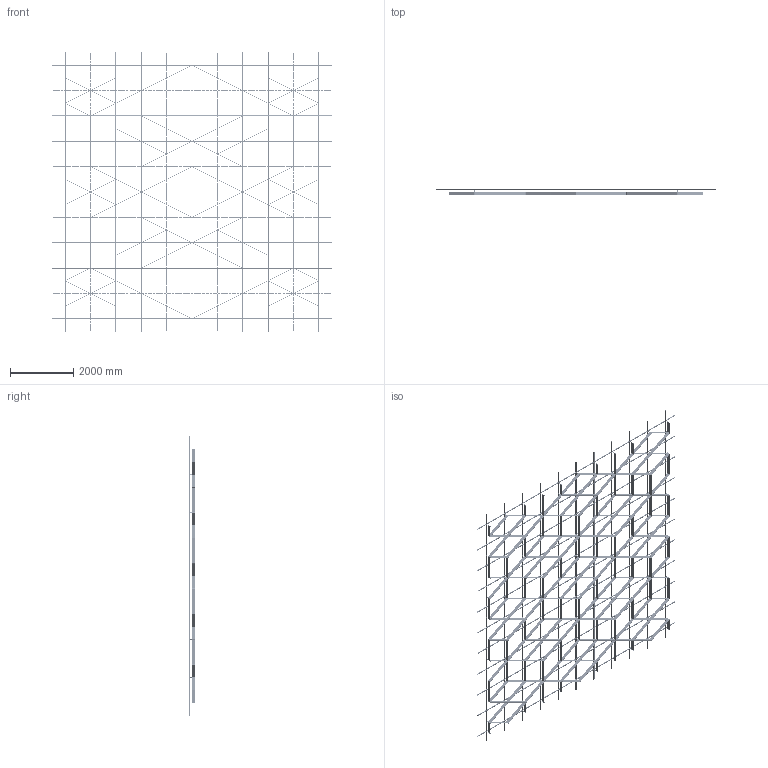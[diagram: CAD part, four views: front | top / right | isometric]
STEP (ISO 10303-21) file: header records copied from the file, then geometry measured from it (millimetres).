
FILE_DESCRIPTION (( 'STEP AP203' ), '1' );
FILE_NAME ('24 ìèäè ñ ïñ.step', '2025-11-26T11:52:01', ( '' ), ( '' ), 'SwSTEP 2.0', 'SolidWorks 2020', '' );
FILE_SCHEMA (( 'CONFIG_CONTROL_DESIGN' ));
Length unit declared in the file: millimetre
Products named in the file (5): 24 ìèäè ñ ïñ; Ñèñòåìà â çîíå 8000õ8000; SS.SEMA.2400 - Ñèìà-ïðîôèëü; SS.SEMA.2400 - Ñèìà-ïðîôèëü — îáðåçàí 1600; Var24
Assembly tree (90 placements, depth 3):
  24 ìèäè ñ ïñ
    Ñèñòåìà â çîíå 8000õ8000
      SS.SEMA.2400 - Ñèìà-ïðîôèëü  x66
      SS.SEMA.2400 - Ñèìà-ïðîôèëü — îáðåçàí 1600  x22
    Var24
Bounding box: 8800 x 205 x 8800 mm (x, y, z)
Volume: 161360638.5 mm3; surface area: 66990415.1 mm2
Topology: 808 solids, 808 shells, 19804 faces, 53156 edges, 34968 vertices
Faces by surface type: cylinder 12874, plane 6930
Entity records: 91407 total; most frequent: CARTESIAN_POINT 21650, ORIENTED_EDGE 13160, DIRECTION 13026, EDGE_CURVE 6580, AXIS2_PLACEMENT_3D 6264, VERTEX_POINT 4376, EDGE_LOOP 3810, FACE_OUTER_BOUND 3648
